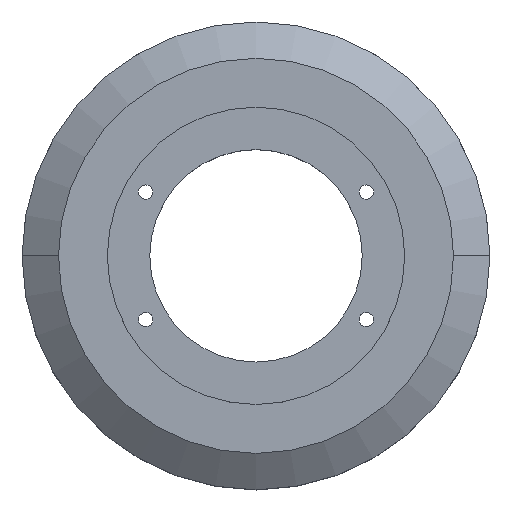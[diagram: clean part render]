
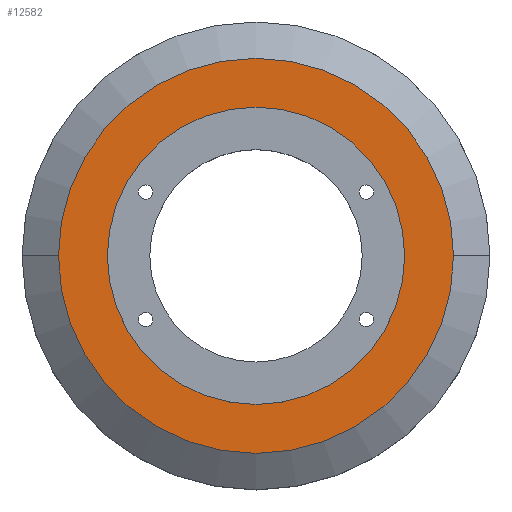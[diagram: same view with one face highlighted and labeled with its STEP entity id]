
A CAD part, top view. The second image highlights one B-rep face of the part: STEP entity #12582.
In plain terms, the highlighted planar face has unit normal (0, 0, 1).
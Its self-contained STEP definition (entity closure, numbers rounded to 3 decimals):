
#326=CARTESIAN_POINT('',(0.,0.,30.));
#327=DIRECTION('',(0.,0.,-1.));
#328=DIRECTION('',(1.,0.,0.));
#329=AXIS2_PLACEMENT_3D('',#326,#327,#328);
#335=CARTESIAN_POINT('',(0.,0.,30.));
#336=DIRECTION('',(0.,0.,-1.));
#337=DIRECTION('',(-1.,0.,0.));
#338=AXIS2_PLACEMENT_3D('',#335,#336,#337);
#343=CARTESIAN_POINT('',(0.,0.,30.));
#344=DIRECTION('',(0.,0.,1.));
#345=DIRECTION('',(-1.,0.,0.));
#346=AXIS2_PLACEMENT_3D('',#343,#344,#345);
#351=CARTESIAN_POINT('',(0.,0.,30.));
#352=DIRECTION('',(0.,0.,1.));
#353=DIRECTION('',(1.,0.,0.));
#354=AXIS2_PLACEMENT_3D('',#351,#352,#353);
#12435=CARTESIAN_POINT('',(-46.5,0.,30.));
#12437=VERTEX_POINT('',#12435);
#12439=CARTESIAN_POINT('',(46.5,0.,30.));
#12440=VERTEX_POINT('',#12439);
#12443=CARTESIAN_POINT('',(-35.,0.,30.));
#12445=VERTEX_POINT('',#12443);
#12447=CARTESIAN_POINT('',(35.,0.,30.));
#12448=VERTEX_POINT('',#12447);
#12565=CARTESIAN_POINT('',(0.,0.,30.));
#12566=DIRECTION('',(0.,0.,-1.));
#12567=DIRECTION('',(1.,0.,0.));
#12568=AXIS2_PLACEMENT_3D('',#12565,#12566,#12567);
#12569=PLANE('',#12568);
#12571=ORIENTED_EDGE('',*,*,#12570,.T.);
#12573=ORIENTED_EDGE('',*,*,#12572,.T.);
#12574=EDGE_LOOP('',(#12571,#12573));
#12575=FACE_OUTER_BOUND('',#12574,.F.);
#12577=ORIENTED_EDGE('',*,*,#12576,.T.);
#12579=ORIENTED_EDGE('',*,*,#12578,.T.);
#12580=EDGE_LOOP('',(#12577,#12579));
#12581=FACE_BOUND('',#12580,.F.);
#330=CIRCLE('',#329,46.5);
#339=CIRCLE('',#338,46.5);
#347=CIRCLE('',#346,35.);
#355=CIRCLE('',#354,35.);
#12570=EDGE_CURVE('',#12440,#12437,#330,.T.);
#12572=EDGE_CURVE('',#12437,#12440,#339,.T.);
#12576=EDGE_CURVE('',#12445,#12448,#347,.T.);
#12578=EDGE_CURVE('',#12448,#12445,#355,.T.);
#12582=ADVANCED_FACE('',(#12575,#12581),#12569,.F.);
